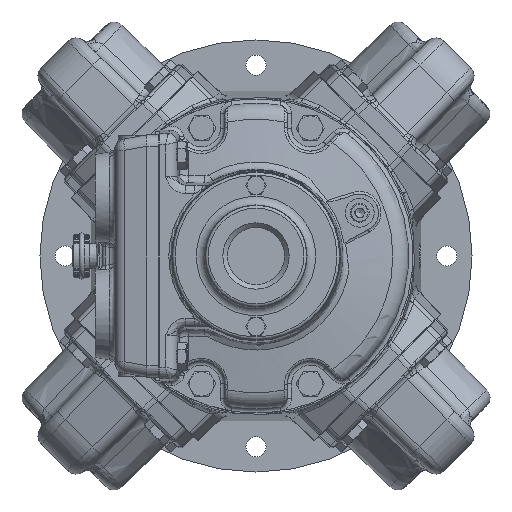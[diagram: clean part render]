
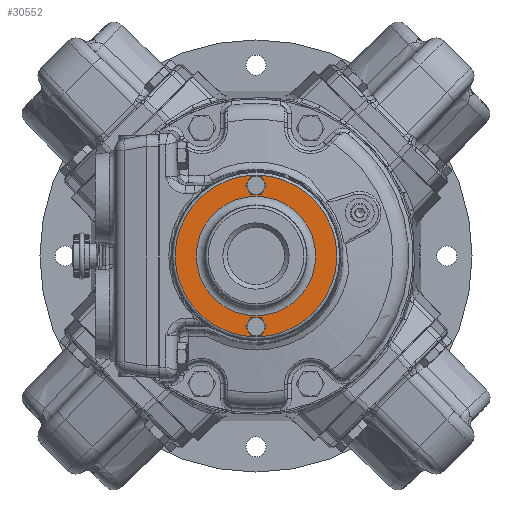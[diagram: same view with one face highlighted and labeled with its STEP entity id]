
A CAD part, left-side view. The second image highlights one B-rep face of the part: STEP entity #30552.
In plain terms, the highlighted planar face has unit normal (-1, 0, 0).
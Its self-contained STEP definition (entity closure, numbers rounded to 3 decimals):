
#2262 = DIRECTION ( 'NONE',  ( 1., 0., 0. ) ) ;
#2602 = FACE_BOUND ( 'NONE', #36146, .T. ) ;
#3560 = FACE_BOUND ( 'NONE', #75215, .T. ) ;
#3995 = CIRCLE ( 'NONE', #8716, 6.227 ) ;
#8716 = AXIS2_PLACEMENT_3D ( 'NONE', #75750, #21413, #15044 ) ;
#12079 = DIRECTION ( 'NONE',  ( 0., 0., 1. ) ) ;
#13008 = CARTESIAN_POINT ( 'NONE',  ( -237.35, -6.227, -49. ) ) ;
#13897 = EDGE_CURVE ( 'NONE', #92218, #92218, #26735, .T. ) ;
#14510 = EDGE_LOOP ( 'NONE', ( #18604 ) ) ;
#15044 = DIRECTION ( 'NONE',  ( 0., -1., 0. ) ) ;
#16199 = CIRCLE ( 'NONE', #63093, 6.227 ) ;
#16477 = DIRECTION ( 'NONE',  ( 0., 0., 1. ) ) ;
#17291 = FACE_OUTER_BOUND ( 'NONE', #14510, .T. ) ;
#17766 = DIRECTION ( 'NONE',  ( -1., 0., 0. ) ) ;
#18604 = ORIENTED_EDGE ( 'NONE', *, *, #83436, .T. ) ;
#18751 = FACE_BOUND ( 'NONE', #34914, .T. ) ;
#20286 = AXIS2_PLACEMENT_3D ( 'NONE', #34080, #84573, #12079 ) ;
#21413 = DIRECTION ( 'NONE',  ( 1., 0., 0. ) ) ;
#24012 = EDGE_CURVE ( 'NONE', #69648, #69648, #3995, .T. ) ;
#26735 = CIRCLE ( 'NONE', #86160, 41.417 ) ;
#30552 = ADVANCED_FACE ( 'NONE', ( #2602, #3560, #17291, #18751 ), #77059, .T. ) ;
#33066 = CARTESIAN_POINT ( 'NONE',  ( -237.35, 0., 0. ) ) ;
#33349 = CARTESIAN_POINT ( 'NONE',  ( -237.35, -6.227, 49. ) ) ;
#33917 = CARTESIAN_POINT ( 'NONE',  ( -237.35, 0., 0. ) ) ;
#34080 = CARTESIAN_POINT ( 'NONE',  ( -237.35, 0., 0. ) ) ;
#34914 = EDGE_LOOP ( 'NONE', ( #96182 ) ) ;
#36146 = EDGE_LOOP ( 'NONE', ( #79314 ) ) ;
#38194 = VERTEX_POINT ( 'NONE', #60732 ) ;
#44287 = DIRECTION ( 'NONE',  ( 0., -1., 0. ) ) ;
#47937 = ORIENTED_EDGE ( 'NONE', *, *, #24012, .T. ) ;
#49128 = DIRECTION ( 'NONE',  ( 0., 0., 1. ) ) ;
#51097 = EDGE_CURVE ( 'NONE', #86989, #86989, #16199, .T. ) ;
#54647 = AXIS2_PLACEMENT_3D ( 'NONE', #33917, #17766, #49128 ) ;
#59002 = CARTESIAN_POINT ( 'NONE',  ( -237.35, 0., -49. ) ) ;
#60732 = CARTESIAN_POINT ( 'NONE',  ( -237.35, 0., 56.097 ) ) ;
#63093 = AXIS2_PLACEMENT_3D ( 'NONE', #59002, #88888, #44287 ) ;
#69648 = VERTEX_POINT ( 'NONE', #33349 ) ;
#75215 = EDGE_LOOP ( 'NONE', ( #47937 ) ) ;
#75750 = CARTESIAN_POINT ( 'NONE',  ( -237.35, 0., 49. ) ) ;
#77059 = PLANE ( 'NONE',  #54647 ) ;
#77486 = CARTESIAN_POINT ( 'NONE',  ( -237.35, 0., 41.417 ) ) ;
#79314 = ORIENTED_EDGE ( 'NONE', *, *, #51097, .F. ) ;
#83436 = EDGE_CURVE ( 'NONE', #38194, #38194, #95433, .T. ) ;
#84573 = DIRECTION ( 'NONE',  ( -1., 0., 0. ) ) ;
#86160 = AXIS2_PLACEMENT_3D ( 'NONE', #33066, #2262, #16477 ) ;
#86989 = VERTEX_POINT ( 'NONE', #13008 ) ;
#88888 = DIRECTION ( 'NONE',  ( -1., 0., 0. ) ) ;
#92218 = VERTEX_POINT ( 'NONE', #77486 ) ;
#95433 = CIRCLE ( 'NONE', #20286, 56.097 ) ;
#96182 = ORIENTED_EDGE ( 'NONE', *, *, #13897, .T. ) ;
